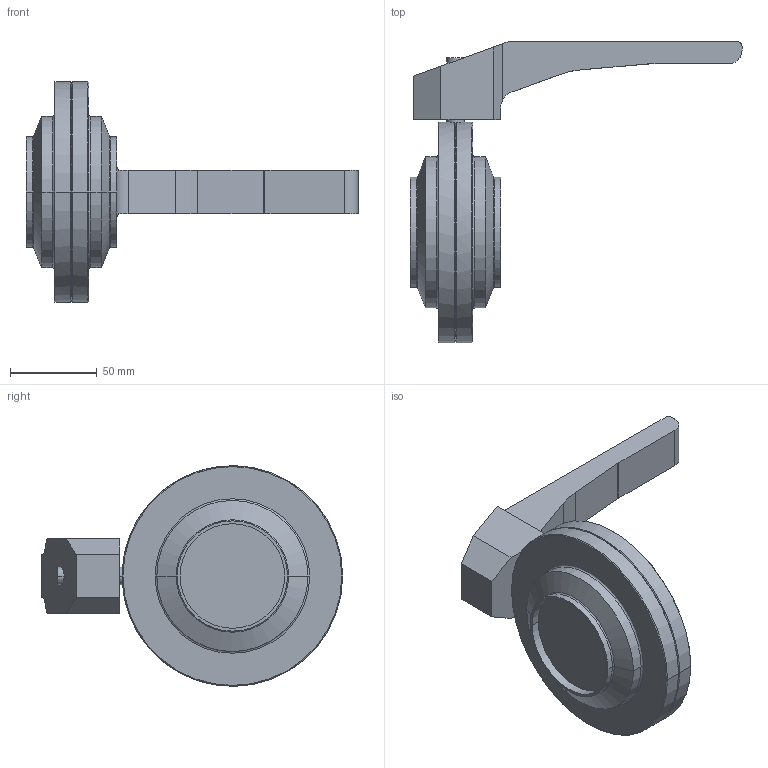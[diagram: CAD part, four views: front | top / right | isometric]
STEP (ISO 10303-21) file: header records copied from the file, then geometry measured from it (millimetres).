
FILE_DESCRIPTION(('OneSpaceDesigner STEP Export'),'2;1');
FILE_NAME('SV1-2.5zoll-H-12S.stp','2007-04-20T11:54:34',(''),(''),'OneSpace Designer STEP processor for AP214 (Solid Model)','OneSpace Modeling 15.00 06-Feb-2007 (C) CoCreate Software GmbH','');
FILE_SCHEMA(('AUTOMOTIVE_DESIGN { 1 0 10303 214 1 1 1 1 }'));
Length unit declared in the file: millimetre
Products named in the file (3): Handhebel-SV-40-100; Gehäusehälfte-SV1-2.5zoll-1S; SV1-2.5zoll-H-12S-vereint
Assembly tree (2 placements, depth 2):
  SV1-2.5zoll-H-12S-vereint
    Gehäusehälfte-SV1-2.5zoll-1S
    Handhebel-SV-40-100
Bounding box: 191.2 x 173.5 x 127 mm (x, y, z)
Volume: 507424.4 mm3; surface area: 62079.9 mm2
Topology: 2 solids, 2 shells, 70 faces, 157 edges, 96 vertices
Faces by surface type: plane 25, cylinder 25, cone 12, torus 8
Entity records: 2232 total; most frequent: CARTESIAN_POINT 730, ORIENTED_EDGE 314, DIRECTION 275, EDGE_CURVE 157, AXIS2_PLACEMENT_3D 99, VERTEX_POINT 96, VECTOR 77, LINE 77
